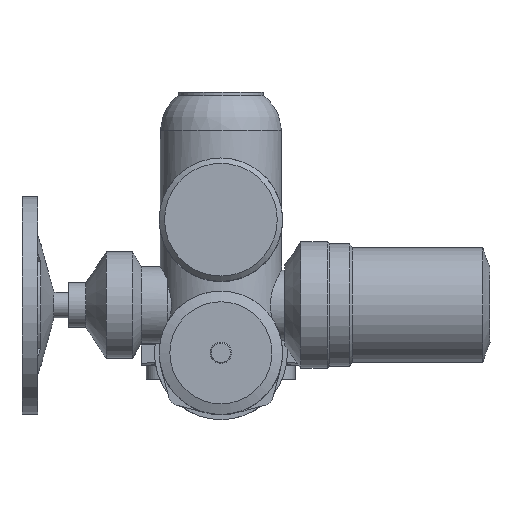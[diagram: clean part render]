
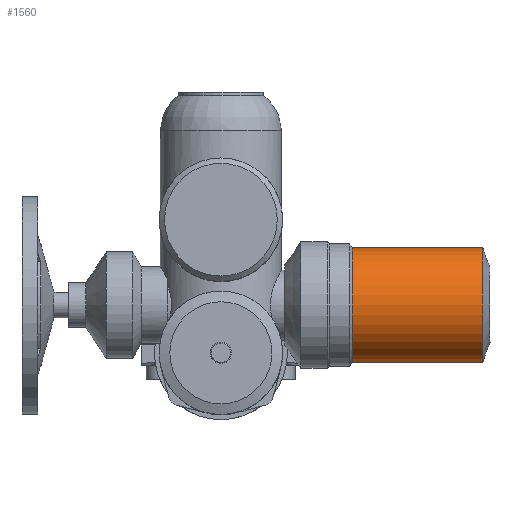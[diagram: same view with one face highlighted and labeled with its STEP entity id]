
A CAD part, top view. The second image highlights one B-rep face of the part: STEP entity #1560.
In plain terms, the highlighted cylindrical face has radius 54 mm (diameter 108 mm), a full revolution.
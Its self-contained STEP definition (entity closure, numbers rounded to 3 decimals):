
#1560=ADVANCED_FACE('',(#3520,#3522),#3524,.T.);
#3520=FACE_OUTER_BOUND('',#3521,.T.);
#3521=EDGE_LOOP('',(#4924));
#3522=FACE_OUTER_BOUND('',#3523,.T.);
#3523=EDGE_LOOP('',(#4925));
#3524=CYLINDRICAL_SURFACE('',#3525,54.);
#3525=AXIS2_PLACEMENT_3D('',#3526,#3527,#3528);
#3526=CARTESIAN_POINT('',(246.085,45.,413.));
#3527=DIRECTION('',(-1.,0.,0.));
#3528=DIRECTION('',(0.,0.,1.));
#4924=ORIENTED_EDGE('',*,*,#5747,.T.);
#4925=ORIENTED_EDGE('',*,*,#5669,.F.);
#5669=EDGE_CURVE('',#6524,#6524,#6525,.T.);
#5747=EDGE_CURVE('',#6648,#6648,#6649,.T.);
#6524=VERTEX_POINT('',#9439);
#6525=CIRCLE('',#9440,54.);
#6648=VERTEX_POINT('',#9735);
#6649=CIRCLE('',#9736,54.);
#9439=CARTESIAN_POINT('',(123.505,45.,467.));
#9440=AXIS2_PLACEMENT_3D('',#9441,#9442,#9443);
#9441=CARTESIAN_POINT('',(123.505,45.,413.));
#9442=DIRECTION('',(-1.,0.,0.));
#9443=DIRECTION('',(0.,0.,1.));
#9735=CARTESIAN_POINT('',(246.085,45.,467.));
#9736=AXIS2_PLACEMENT_3D('',#9737,#9738,#9739);
#9737=CARTESIAN_POINT('',(246.085,45.,413.));
#9738=DIRECTION('',(-1.,0.,0.));
#9739=DIRECTION('',(0.,0.,1.));
